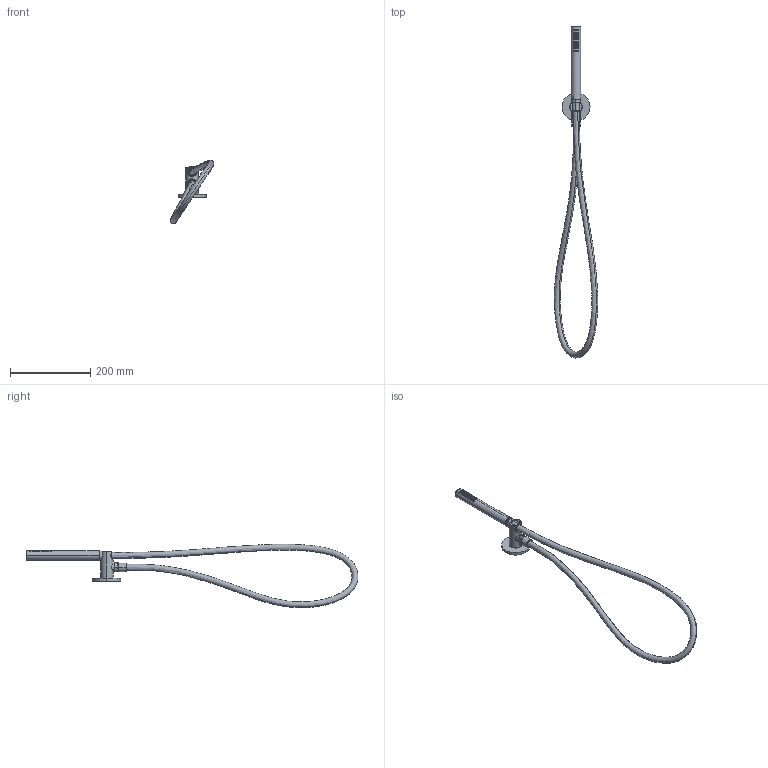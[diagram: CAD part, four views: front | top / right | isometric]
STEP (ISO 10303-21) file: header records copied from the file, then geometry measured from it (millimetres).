
FILE_DESCRIPTION(('STEP AP214'),'2;1');
FILE_NAME('DIS_3D_8158.stp','2025-09-11T13:40:45',(''),(''),'2015.2.119','THINKDESIGN','');
FILE_SCHEMA(('AUTOMOTIVE_DESIGN'));
Length unit declared in the file: millimetre
Products named in the file (1): top
Bounding box: 108.25 x 828.6 x 158.53 mm (x, y, z)
Volume: 323027.9 mm3; surface area: 138885.1 mm2
Topology: 9 solids, 9 shells, 1208 faces, 3976 edges, 2856 vertices
Faces by surface type: plane 503, bspline 471, cylinder 234
Entity records: 110793 total; most frequent: CARTESIAN_POINT 56233, ORIENTED_EDGE 7914, DIRECTION 5547, EDGE_CURVE 3957, VERTEX_POINT 2856, STYLED_ITEM 2425, PRESENTATION_STYLE_ASSIGNMENT 2419, SURFACE_STYLE_USAGE 2419
